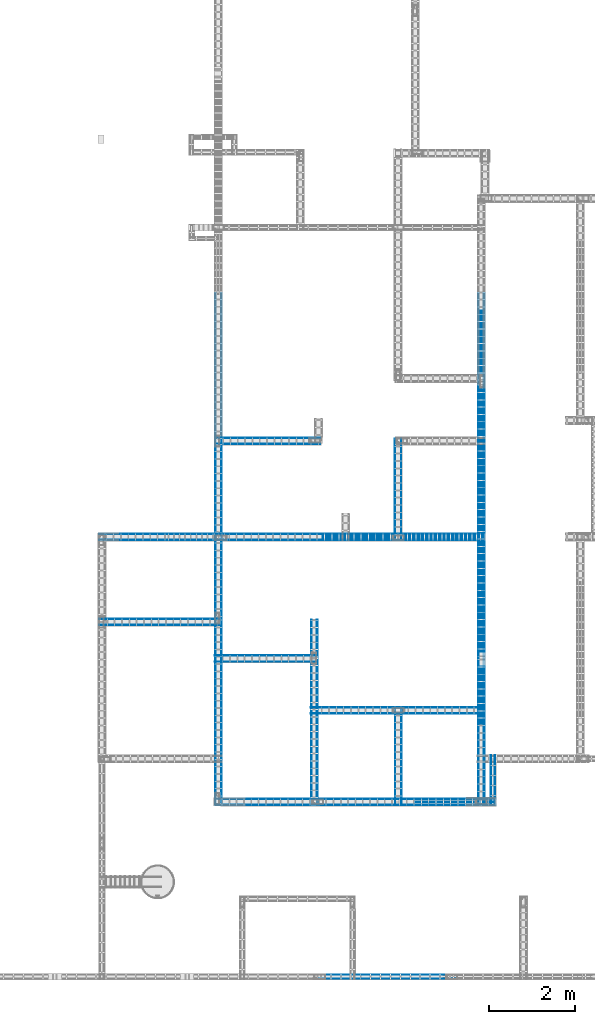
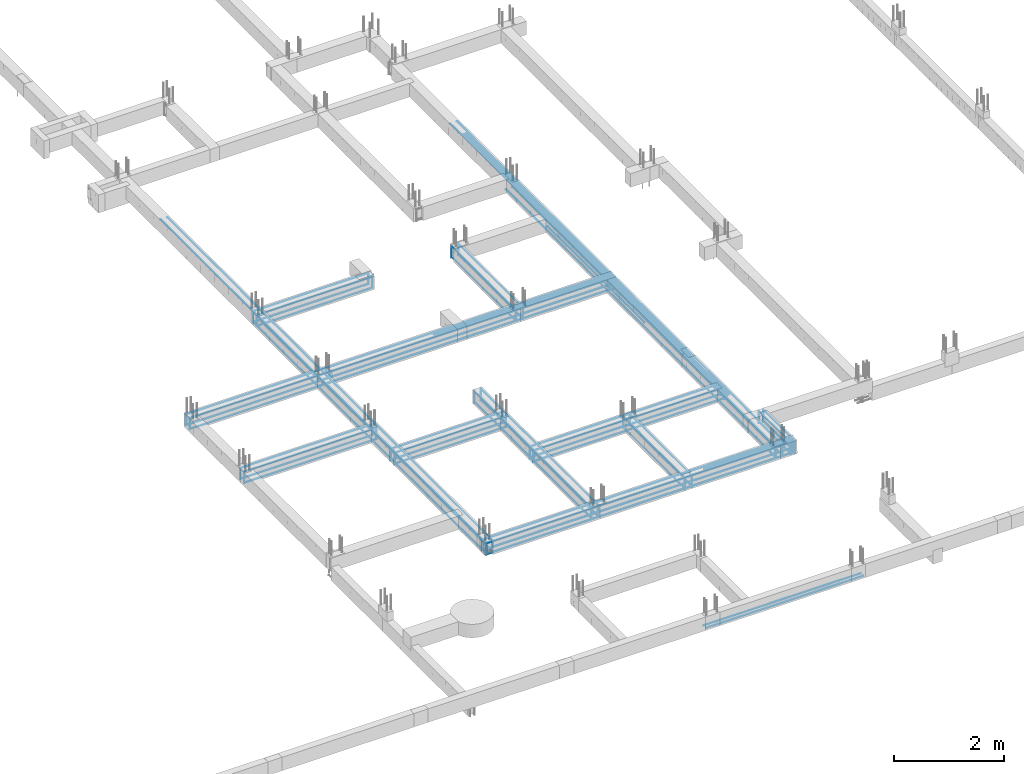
# One storey, part 9 of 150: 60 reinforcing bars.
"""IFC4 building model written with IfcOpenShell, lengths in centimetres."""

from ifc_helpers import new_model, entity, si_unit, derived_unit, frame, origin_with_axes, place, context, project, spatial, element, save


model = new_model("IFC4")

# Units and contexts
model_context = context("Model", 3, precision=1e-05, world=origin_with_axes(), identifier="Body")
ifc_project = project(units=[si_unit("LENGTHUNIT", "METRE", prefix="CENTI"), si_unit("VOLUMEUNIT", "CUBIC_METRE"), si_unit("AREAUNIT", "SQUARE_METRE"), si_unit("POWERUNIT", "WATT"), si_unit("LUMINOUSFLUXUNIT", "LUMEN"), si_unit("ELECTRICCURRENTUNIT", "AMPERE"), si_unit("PRESSUREUNIT", "PASCAL", prefix="KILO"), si_unit("MASSUNIT", "GRAM", prefix="KILO"), si_unit("PLANEANGLEUNIT", "RADIAN"), derived_unit("VOLUMETRICFLOWRATEUNIT", [(si_unit("LENGTHUNIT", "METRE"), 3), (si_unit("TIMEUNIT", "SECOND"), -1)])], contexts=[model_context])

# Site, building, storey
site_placement = place(None, frame((-4000.0, 0.0, 0.0), z_axis=(0.0, 0.0, 1.0), x_axis=(1.0, 0.0, 0.0)))
site = spatial("IfcSite", under=ifc_project, at=site_placement, Name="PADRÃO")
building_placement = place(site_placement, frame((0.0, 0.0, -14.0)))
building = spatial("IfcBuilding", under=site, at=building_placement, Name="CRECHE PRÉ-ESCOLA TIPO 2")
placement = place(building_placement, origin_with_axes())
storey_placement = place(placement, frame((0.0, 0.0, 30.0), z_axis=(0.0, 0.0, 1.0), x_axis=(1.0, 0.0, 0.0)))
storey = spatial("IfcBuildingStorey", under=building, at=storey_placement, Name="VIGA BALDRAME", CompositionType="ELEMENT", Elevation=16.0)

# Reinforcing bars
for number, where, z_axis, x_axis, name in (
    (1, (2640.6181248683, 1245.41, -17.1), (0.0, 0.0, 1.0), (1.0, 0.0, 0.0), "V137 - Longitudinal inferior"),
    (2, (2640.6181248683, 1259.61, -17.1), (0.0, 0.0, 1.0), (1.0, 0.0, 0.0), "V137 - Longitudinal inferior"),
):
    element("IfcReinforcingBar", number, at=place(storey_placement, frame(where, z_axis=z_axis, x_axis=x_axis)), inside=storey, Name=name, BarLength=0.0, CrossSectionArea=5.0265482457e-05, NominalDiameter=0.8, PredefinedType="MAIN", context=model_context, shape_type="AdvancedSweptSolid", body=[
        entity("IfcSweptDiskSolid", entity("IfcCompositeCurve", [entity("IfcCompositeCurveSegment", "CONTINUOUS", True, entity("IfcPolyline", [entity("IfcCartesianPoint", [-121.7181248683, 0.0, 0.0]), entity("IfcCartesianPoint", [-121.7181248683, 0.0, -10.0])])), entity("IfcCompositeCurveSegment", "CONTINUOUS", True, entity("IfcPolyline", [entity("IfcCartesianPoint", [-121.7181248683, 0.0, -10.0]), entity("IfcCartesianPoint", [122.121875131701, 0.0, -10.0])]))], False), 0.4),
    ])
for number, where, z_axis, x_axis, name in (
    (3, (2640.62, 1259.61, -2.49624973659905), (0.0, 0.0, 1.0), (1.0, 0.0, 0.0), "V137 - Longitudinal superior"),
    (4, (2640.62, 1245.41, -2.49624973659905), (0.0, 0.0, 1.0), (1.0, 0.0, 0.0), "V137 - Longitudinal superior"),
):
    element("IfcReinforcingBar", number, at=place(storey_placement, frame(where, z_axis=z_axis, x_axis=x_axis)), inside=storey, Name=name, BarLength=0.0, CrossSectionArea=5.0265482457e-05, NominalDiameter=0.8, PredefinedType="MAIN", context=model_context, shape_type="AdvancedSweptSolid", body=[
        entity("IfcSweptDiskSolid", entity("IfcCompositeCurve", [entity("IfcCompositeCurveSegment", "CONTINUOUS", True, entity("IfcPolyline", [entity("IfcCartesianPoint", [-121.72, 0.0, -24.2941566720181]), entity("IfcCartesianPoint", [-121.72, 0.0, -0.403750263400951])])), entity("IfcCompositeCurveSegment", "CONTINUOUS", True, entity("IfcPolyline", [entity("IfcCartesianPoint", [-121.72, 0.0, -0.403750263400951]), entity("IfcCartesianPoint", [121.72, 0.0, -0.403750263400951])])), entity("IfcCompositeCurveSegment", "CONTINUOUS", True, entity("IfcPolyline", [entity("IfcCartesianPoint", [121.72, 0.0, -0.403750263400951]), entity("IfcCartesianPoint", [121.72, 0.0, -24.2941566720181])]))], False), 0.4),
    ])
for number, where, z_axis, x_axis, name in (
    (5, (2396.9931248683, 1037.11, -17.1), (0.0, 0.0, 1.0), (1.0, 0.0, 0.0), "V142 - Longitudinal inferior"),
    (6, (2396.9931248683, 1022.91, -17.1), (0.0, 0.0, 1.0), (1.0, 0.0, 0.0), "V142 - Longitudinal inferior"),
):
    element("IfcReinforcingBar", number, at=place(storey_placement, frame(where, z_axis=z_axis, x_axis=x_axis)), inside=storey, Name=name, BarLength=0.0, CrossSectionArea=5.0265482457e-05, NominalDiameter=0.8, PredefinedType="MAIN", context=model_context, shape_type="AdvancedSweptSolid", body=[
        entity("IfcSweptDiskSolid", entity("IfcCompositeCurve", [entity("IfcCompositeCurveSegment", "CONTINUOUS", True, entity("IfcPolyline", [entity("IfcCartesianPoint", [-147.1031248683, 0.0, 0.0]), entity("IfcCartesianPoint", [-147.1031248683, 0.0, -10.0])])), entity("IfcCompositeCurveSegment", "CONTINUOUS", True, entity("IfcPolyline", [entity("IfcCartesianPoint", [-147.1031248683, 0.0, -10.0]), entity("IfcCartesianPoint", [147.5068751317, 0.0, -10.0])]))], False), 0.4),
    ])
for number, where, z_axis, x_axis, name in (
    (7, (2396.995, 1037.01, -2.49531217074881), (0.0, 0.0, 1.0), (1.0, 0.0, 0.0), "V142 - Longitudinal superior"),
    (8, (2396.995, 1023.01, -2.49531217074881), (0.0, 0.0, 1.0), (1.0, 0.0, 0.0), "V142 - Longitudinal superior"),
):
    element("IfcReinforcingBar", number, at=place(storey_placement, frame(where, z_axis=z_axis, x_axis=x_axis)), inside=storey, Name=name, BarLength=0.0, CrossSectionArea=7.853981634e-05, NominalDiameter=1.0, PredefinedType="MAIN", context=model_context, shape_type="AdvancedSweptSolid", body=[
        entity("IfcSweptDiskSolid", entity("IfcCompositeCurve", [entity("IfcCompositeCurveSegment", "CONTINUOUS", True, entity("IfcPolyline", [entity("IfcCartesianPoint", [-147.005, 0.0, -19.6170129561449]), entity("IfcCartesianPoint", [-147.005, 0.0, -0.504687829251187])])), entity("IfcCompositeCurveSegment", "CONTINUOUS", True, entity("IfcPolyline", [entity("IfcCartesianPoint", [-147.005, 0.0, -0.504687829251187]), entity("IfcCartesianPoint", [147.005, 0.0, -0.504687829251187])])), entity("IfcCompositeCurveSegment", "CONTINUOUS", True, entity("IfcPolyline", [entity("IfcCartesianPoint", [147.005, 0.0, -0.504687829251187]), entity("IfcCartesianPoint", [147.005, 0.0, -12.0046878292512])]))], False), 0.5),
    ])
for number, where, z_axis, x_axis, name in (
    (9, (2831.25292989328, 1036.885, -11.5851398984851), (0.0, 0.0, 1.0), (1.0, 0.0, 0.0), "V143 - Longitudinal inferior"),
    (10, (2831.25292989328, 1023.135, -11.5851398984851), (0.0, 0.0, 1.0), (1.0, 0.0, 0.0), "V143 - Longitudinal inferior"),
):
    element("IfcReinforcingBar", number, at=place(storey_placement, frame(where, z_axis=z_axis, x_axis=x_axis)), inside=storey, Name=name, BarLength=0.0, CrossSectionArea=0.000122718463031, NominalDiameter=1.25, PredefinedType="MAIN", context=model_context, shape_type="AdvancedSweptSolid", body=[
        entity("IfcSweptDiskSolid", entity("IfcCompositeCurve", [entity("IfcCompositeCurveSegment", "CONTINUOUS", True, entity("IfcPolyline", [entity("IfcCartesianPoint", [-312.752929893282, 0.0, -15.2898601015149]), entity("IfcCartesianPoint", [312.122070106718, 0.0, -15.2898601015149])])), entity("IfcCompositeCurveSegment", "CONTINUOUS", True, entity("IfcPolyline", [entity("IfcCartesianPoint", [312.122070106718, 0.0, -15.2898601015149]), entity("IfcCartesianPoint", [312.122070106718, 0.0, 0.0])]))], False), 0.625),
    ])
for number, where, z_axis, x_axis, name in (
    (11, (2956.12292989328, 1027.71833333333, -2.49414021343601), (0.0, 0.0, 1.0), (1.0, 0.0, 0.0), "V143 - Longitudinal superior"),
    (12, (2956.12292989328, 1032.30166666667, -2.49414021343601), (0.0, 0.0, 1.0), (1.0, 0.0, 0.0), "V143 - Longitudinal superior"),
):
    element("IfcReinforcingBar", number, at=place(storey_placement, frame(where, z_axis=z_axis, x_axis=x_axis)), inside=storey, Name=name, BarLength=0.0, CrossSectionArea=0.000122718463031, NominalDiameter=1.25, PredefinedType="MAIN", context=model_context, shape_type="AdvancedSweptSolid", body=[
        entity("IfcSweptDiskSolid", entity("IfcCompositeCurve", [entity("IfcCompositeCurveSegment", "CONTINUOUS", True, entity("IfcPolyline", [entity("IfcCartesianPoint", [-187.882929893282, 0.0, -0.630859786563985]), entity("IfcCartesianPoint", [187.252070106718, 0.0, -0.630859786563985])])), entity("IfcCompositeCurveSegment", "CONTINUOUS", True, entity("IfcPolyline", [entity("IfcCartesianPoint", [187.252070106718, 0.0, -0.630859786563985]), entity("IfcCartesianPoint", [187.252070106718, 0.0, -26.630859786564])]))], False), 0.625),
    ])
for number, where, z_axis, x_axis, name in (
    (13, (2831.25, 1036.885, -2.49414021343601), (0.0, 0.0, 1.0), (1.0, 0.0, 0.0), "V143 - Longitudinal superior"),
    (14, (2831.25, 1023.135, -2.49414021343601), (0.0, 0.0, 1.0), (1.0, 0.0, 0.0), "V143 - Longitudinal superior"),
):
    element("IfcReinforcingBar", number, at=place(storey_placement, frame(where, z_axis=z_axis, x_axis=x_axis)), inside=storey, Name=name, BarLength=0.0, CrossSectionArea=0.000122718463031, NominalDiameter=1.25, PredefinedType="MAIN", context=model_context, shape_type="AdvancedSweptSolid", body=[
        entity("IfcSweptDiskSolid", entity("IfcCompositeCurve", [entity("IfcCompositeCurveSegment", "CONTINUOUS", True, entity("IfcPolyline", [entity("IfcCartesianPoint", [-312.125, 0.0, -10.630859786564]), entity("IfcCartesianPoint", [-312.125, 0.0, -0.630859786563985])])), entity("IfcCompositeCurveSegment", "CONTINUOUS", True, entity("IfcPolyline", [entity("IfcCartesianPoint", [-312.125, 0.0, -0.630859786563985]), entity("IfcCartesianPoint", [312.125, 0.0, -0.630859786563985])])), entity("IfcCompositeCurveSegment", "CONTINUOUS", True, entity("IfcPolyline", [entity("IfcCartesianPoint", [312.125, 0.0, -0.630859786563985]), entity("IfcCartesianPoint", [312.125, 0.0, -26.630859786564])]))], False), 0.625),
    ])
for number, where, z_axis, x_axis, name in (
    (15, (2388.9931248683, 825.42, -17.1), (0.0, 0.0, 1.0), (1.0, 0.0, 0.0), "V146 - Longitudinal inferior"),
    (16, (2388.9931248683, 839.62, -17.1), (0.0, 0.0, 1.0), (1.0, 0.0, 0.0), "V146 - Longitudinal inferior"),
):
    element("IfcReinforcingBar", number, at=place(storey_placement, frame(where, z_axis=z_axis, x_axis=x_axis)), inside=storey, Name=name, BarLength=0.0, CrossSectionArea=5.0265482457e-05, NominalDiameter=0.8, PredefinedType="MAIN", context=model_context, shape_type="AdvancedSweptSolid", body=[
        entity("IfcSweptDiskSolid", entity("IfcCompositeCurve", [entity("IfcCompositeCurveSegment", "CONTINUOUS", True, entity("IfcPolyline", [entity("IfcCartesianPoint", [-139.1031248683, 0.0, 0.0]), entity("IfcCartesianPoint", [-139.1031248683, 0.0, -10.0])])), entity("IfcCompositeCurveSegment", "CONTINUOUS", True, entity("IfcPolyline", [entity("IfcCartesianPoint", [-139.1031248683, 0.0, -10.0]), entity("IfcCartesianPoint", [139.5068751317, 0.0, -10.0])]))], False), 0.4),
    ])
for number, where, z_axis, x_axis, name in (
    (17, (2388.995, 825.42, -2.49624973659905), (0.0, 0.0, 1.0), (1.0, 0.0, 0.0), "V146 - Longitudinal superior"),
    (18, (2388.995, 839.62, -2.49624973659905), (0.0, 0.0, 1.0), (1.0, 0.0, 0.0), "V146 - Longitudinal superior"),
):
    element("IfcReinforcingBar", number, at=place(storey_placement, frame(where, z_axis=z_axis, x_axis=x_axis)), inside=storey, Name=name, BarLength=0.0, CrossSectionArea=5.0265482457e-05, NominalDiameter=0.8, PredefinedType="MAIN", context=model_context, shape_type="AdvancedSweptSolid", body=[
        entity("IfcSweptDiskSolid", entity("IfcCompositeCurve", [entity("IfcCompositeCurveSegment", "CONTINUOUS", True, entity("IfcPolyline", [entity("IfcCartesianPoint", [-139.105, 0.0, -24.2941566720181]), entity("IfcCartesianPoint", [-139.105, 0.0, -0.403750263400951])])), entity("IfcCompositeCurveSegment", "CONTINUOUS", True, entity("IfcPolyline", [entity("IfcCartesianPoint", [-139.105, 0.0, -0.403750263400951]), entity("IfcCartesianPoint", [139.105, 0.0, -0.403750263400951])])), entity("IfcCompositeCurveSegment", "CONTINUOUS", True, entity("IfcPolyline", [entity("IfcCartesianPoint", [139.105, 0.0, -0.403750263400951]), entity("IfcCartesianPoint", [139.105, 0.0, -24.2941566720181])]))], False), 0.4),
    ])
for number, where, z_axis, x_axis, name in (
    (19, (2635.26, 740.49, -26.7), (0.0, 0.0, 1.0), (1.0, 0.0, 0.0), "V147 - Longitudinal inferior"),
    (20, (2635.26, 754.69, -26.7), (0.0, 0.0, 1.0), (1.0, 0.0, 0.0), "V147 - Longitudinal inferior"),
):
    element("IfcReinforcingBar", number, at=place(storey_placement, frame(where, z_axis=z_axis, x_axis=x_axis)), inside=storey, Name=name, BarLength=0.0, CrossSectionArea=5.0265482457e-05, NominalDiameter=0.8, PredefinedType="MAIN", context=model_context, shape_type="AdvancedSweptSolid", body=[
        entity("IfcSweptDiskSolid", entity("IfcCompositeCurve", [entity("IfcCompositeCurveSegment", "CONTINUOUS", True, entity("IfcPolyline", [entity("IfcCartesianPoint", [-117.26, 0.0, -0.4]), entity("IfcCartesianPoint", [117.26, 0.0, -0.4])]))], False), 0.4),
    ])
for number, where, z_axis, x_axis, name in (
    (21, (2635.26, 740.49, -2.49624973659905), (0.0, 0.0, 1.0), (1.0, 0.0, 0.0), "V147 - Longitudinal superior"),
    (22, (2635.26, 754.69, -2.49624973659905), (0.0, 0.0, 1.0), (1.0, 0.0, 0.0), "V147 - Longitudinal superior"),
):
    element("IfcReinforcingBar", number, at=place(storey_placement, frame(where, z_axis=z_axis, x_axis=x_axis)), inside=storey, Name=name, BarLength=0.0, CrossSectionArea=5.0265482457e-05, NominalDiameter=0.8, PredefinedType="MAIN", context=model_context, shape_type="AdvancedSweptSolid", body=[
        entity("IfcSweptDiskSolid", entity("IfcCompositeCurve", [entity("IfcCompositeCurveSegment", "CONTINUOUS", True, entity("IfcPolyline", [entity("IfcCartesianPoint", [-116.86, 0.0, -26.403750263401]), entity("IfcCartesianPoint", [-116.86, 0.0, -0.403750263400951])])), entity("IfcCompositeCurveSegment", "CONTINUOUS", True, entity("IfcPolyline", [entity("IfcCartesianPoint", [-116.86, 0.0, -0.403750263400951]), entity("IfcCartesianPoint", [116.86, 0.0, -0.403750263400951])])), entity("IfcCompositeCurveSegment", "CONTINUOUS", True, entity("IfcPolyline", [entity("IfcCartesianPoint", [116.86, 0.0, -0.403750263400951]), entity("IfcCartesianPoint", [116.86, 0.0, -24.2941566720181])]))], False), 0.4),
    ])
for number, where, z_axis, x_axis, name in (
    (23, (2942.23, 634.68, -26.7), (0.0, 0.0, 1.0), (1.0, 0.0, 0.0), "V148 - Longitudinal inferior"),
    (24, (2942.23, 620.48, -26.7), (0.0, 0.0, 1.0), (1.0, 0.0, 0.0), "V148 - Longitudinal inferior"),
):
    element("IfcReinforcingBar", number, at=place(storey_placement, frame(where, z_axis=z_axis, x_axis=x_axis)), inside=storey, Name=name, BarLength=0.0, CrossSectionArea=5.0265482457e-05, NominalDiameter=0.8, PredefinedType="MAIN", context=model_context, shape_type="AdvancedSweptSolid", body=[
        entity("IfcSweptDiskSolid", entity("IfcCompositeCurve", [entity("IfcCompositeCurveSegment", "CONTINUOUS", True, entity("IfcPolyline", [entity("IfcCartesianPoint", [-201.77, 0.0, -0.4]), entity("IfcCartesianPoint", [201.77, 0.0, -0.4])]))], False), 0.4),
    ])
for number, where, z_axis, x_axis, name in (
    (25, (2942.23, 634.58, -2.49531217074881), (0.0, 0.0, 1.0), (1.0, 0.0, 0.0), "V148 - Longitudinal superior"),
    (26, (2942.23, 620.58, -2.49531217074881), (0.0, 0.0, 1.0), (1.0, 0.0, 0.0), "V148 - Longitudinal superior"),
):
    element("IfcReinforcingBar", number, at=place(storey_placement, frame(where, z_axis=z_axis, x_axis=x_axis)), inside=storey, Name=name, BarLength=0.0, CrossSectionArea=7.853981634e-05, NominalDiameter=1.0, PredefinedType="MAIN", context=model_context, shape_type="AdvancedSweptSolid", body=[
        entity("IfcSweptDiskSolid", entity("IfcCompositeCurve", [entity("IfcCompositeCurveSegment", "CONTINUOUS", True, entity("IfcPolyline", [entity("IfcCartesianPoint", [-201.27, 0.0, -26.5046878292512]), entity("IfcCartesianPoint", [-201.27, 0.0, -0.504687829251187])])), entity("IfcCompositeCurveSegment", "CONTINUOUS", True, entity("IfcPolyline", [entity("IfcCartesianPoint", [-201.27, 0.0, -0.504687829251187]), entity("IfcCartesianPoint", [201.27, 0.0, -0.504687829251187])])), entity("IfcCompositeCurveSegment", "CONTINUOUS", True, entity("IfcPolyline", [entity("IfcCartesianPoint", [201.27, 0.0, -0.504687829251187]), entity("IfcCartesianPoint", [201.27, 0.0, -26.5046878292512])]))], False), 0.5),
    ])
for number, where, z_axis, x_axis, name in (
    (27, (2843.74, 421.885, -11.5851398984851), (0.0, 0.0, 1.0), (1.0, 0.0, 0.0), "V155 - Longitudinal inferior"),
    (28, (2843.74, 408.135, -11.5851398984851), (0.0, 0.0, 1.0), (1.0, 0.0, 0.0), "V155 - Longitudinal inferior"),
):
    element("IfcReinforcingBar", number, at=place(storey_placement, frame(where, z_axis=z_axis, x_axis=x_axis)), inside=storey, Name=name, BarLength=0.0, CrossSectionArea=0.000122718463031, NominalDiameter=1.25, PredefinedType="MAIN", context=model_context, shape_type="AdvancedSweptSolid", body=[
        entity("IfcSweptDiskSolid", entity("IfcCompositeCurve", [entity("IfcCompositeCurveSegment", "CONTINUOUS", True, entity("IfcPolyline", [entity("IfcCartesianPoint", [-324.615, 0.0, -0.289860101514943]), entity("IfcCartesianPoint", [-324.615, 0.0, -15.2898601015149])])), entity("IfcCompositeCurveSegment", "CONTINUOUS", True, entity("IfcPolyline", [entity("IfcCartesianPoint", [-324.615, 0.0, -15.2898601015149]), entity("IfcCartesianPoint", [324.615, 0.0, -15.2898601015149])])), entity("IfcCompositeCurveSegment", "CONTINUOUS", True, entity("IfcPolyline", [entity("IfcCartesianPoint", [324.615, 0.0, -15.2898601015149]), entity("IfcCartesianPoint", [324.615, 0.0, 0.0])]))], False), 0.625),
    ])
reinforcing_bar_1_placement = place(storey_placement, frame((3074.99292989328, 415.01, -2.49414021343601), z_axis=(0.0, 0.0, 1.0), x_axis=(1.0, 0.0, 0.0)))
element("IfcReinforcingBar", 29, at=reinforcing_bar_1_placement, inside=storey, Name="V155 - Longitudinal superior", BarLength=0.0, CrossSectionArea=0.000122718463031, NominalDiameter=1.25, PredefinedType="MAIN", context=model_context, shape_type="AdvancedSweptSolid", body=[
    entity("IfcSweptDiskSolid", entity("IfcCompositeCurve", [entity("IfcCompositeCurveSegment", "CONTINUOUS", True, entity("IfcPolyline", [entity("IfcCartesianPoint", [-93.9929298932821, 0.0, -0.630859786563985]), entity("IfcCartesianPoint", [93.362070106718, 0.0, -0.630859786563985])])), entity("IfcCompositeCurveSegment", "CONTINUOUS", True, entity("IfcPolyline", [entity("IfcCartesianPoint", [93.362070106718, 0.0, -0.630859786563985]), entity("IfcCartesianPoint", [93.362070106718, 0.0, -26.630859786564])]))], False), 0.625),
])
for number, where, z_axis, x_axis, name in (
    (30, (2843.74, 408.135, -2.49414021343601), (0.0, 0.0, 1.0), (1.0, 0.0, 0.0), "V155 - Longitudinal superior"),
    (31, (2843.74, 421.885, -2.49414021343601), (0.0, 0.0, 1.0), (1.0, 0.0, 0.0), "V155 - Longitudinal superior"),
):
    element("IfcReinforcingBar", number, at=place(storey_placement, frame(where, z_axis=z_axis, x_axis=x_axis)), inside=storey, Name=name, BarLength=0.0, CrossSectionArea=0.000122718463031, NominalDiameter=1.25, PredefinedType="MAIN", context=model_context, shape_type="AdvancedSweptSolid", body=[
        entity("IfcSweptDiskSolid", entity("IfcCompositeCurve", [entity("IfcCompositeCurveSegment", "CONTINUOUS", True, entity("IfcPolyline", [entity("IfcCartesianPoint", [-324.615, 0.0, -15.005859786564]), entity("IfcCartesianPoint", [-324.615, 0.0, -0.630859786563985])])), entity("IfcCompositeCurveSegment", "CONTINUOUS", True, entity("IfcPolyline", [entity("IfcCartesianPoint", [-324.615, 0.0, -0.630859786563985]), entity("IfcCartesianPoint", [324.615, 0.0, -0.630859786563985])])), entity("IfcCompositeCurveSegment", "CONTINUOUS", True, entity("IfcPolyline", [entity("IfcCartesianPoint", [324.615, 0.0, -0.630859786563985]), entity("IfcCartesianPoint", [324.615, 0.0, -26.630859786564])]))], False), 0.625),
    ])
for number, where, z_axis, x_axis, name in (
    (32, (2914.0, 14.1, -26.7), (0.0, 0.0, 1.0), (1.0, 0.0, 0.0), "V158 - Longitudinal inferior"),
    (33, (2914.0, 4.9, -26.7), (0.0, 0.0, 1.0), (1.0, 0.0, 0.0), "V158 - Longitudinal inferior"),
):
    element("IfcReinforcingBar", number, at=place(storey_placement, frame(where, z_axis=z_axis, x_axis=x_axis)), inside=storey, Name=name, BarLength=0.0, CrossSectionArea=5.0265482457e-05, NominalDiameter=0.8, PredefinedType="MAIN", context=model_context, shape_type="AdvancedSweptSolid", body=[
        entity("IfcSweptDiskSolid", entity("IfcCompositeCurve", [entity("IfcCompositeCurveSegment", "CONTINUOUS", True, entity("IfcPolyline", [entity("IfcCartesianPoint", [-165.185840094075, 0.0, -0.4]), entity("IfcCartesianPoint", [165.185840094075, 0.0, -0.4])]))], False), 0.4),
    ])
for number, where, z_axis, x_axis, name in (
    (34, (2532.875, 833.55, -26.25), (0.0, 0.0, 1.0), (1.0, 0.0, 0.0), "V196 - Longitudinal inferior"),
    (35, (2519.125, 833.55, -26.25), (0.0, 0.0, 1.0), (1.0, 0.0, 0.0), "V196 - Longitudinal inferior"),
):
    element("IfcReinforcingBar", number, at=place(storey_placement, frame(where, z_axis=z_axis, x_axis=x_axis)), inside=storey, Name=name, BarLength=0.0, CrossSectionArea=0.000122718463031, NominalDiameter=1.25, PredefinedType="MAIN", context=model_context, shape_type="AdvancedSweptSolid", body=[
        entity("IfcSweptDiskSolid", entity("IfcCompositeCurve", [entity("IfcCompositeCurveSegment", "CONTINUOUS", True, entity("IfcPolyline", [entity("IfcCartesianPoint", [0.0, -423.53, -0.625]), entity("IfcCartesianPoint", [0.0, 423.53, -0.625])]))], False), 0.625),
    ])
for number, where, z_axis, x_axis, name in (
    (36, (2532.875, 1002.82957010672, -2.49414021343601), (0.0, 0.0, 1.0), (1.0, 0.0, 0.0), "V196 - Longitudinal superior"),
    (37, (2519.125, 1002.82957010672, -2.49414021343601), (0.0, 0.0, 1.0), (1.0, 0.0, 0.0), "V196 - Longitudinal superior"),
):
    element("IfcReinforcingBar", number, at=place(storey_placement, frame(where, z_axis=z_axis, x_axis=x_axis)), inside=storey, Name=name, BarLength=0.0, CrossSectionArea=0.000122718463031, NominalDiameter=1.25, PredefinedType="MAIN", context=model_context, shape_type="AdvancedSweptSolid", body=[
        entity("IfcSweptDiskSolid", entity("IfcCompositeCurve", [entity("IfcCompositeCurveSegment", "CONTINUOUS", True, entity("IfcPolyline", [entity("IfcCartesianPoint", [0.0, -592.184570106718, -15.005859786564]), entity("IfcCartesianPoint", [0.0, -592.184570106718, -0.630859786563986])])), entity("IfcCompositeCurveSegment", "CONTINUOUS", True, entity("IfcPolyline", [entity("IfcCartesianPoint", [0.0, -592.184570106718, -0.630859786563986]), entity("IfcCartesianPoint", [0.0, 592.815429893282, -0.630859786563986])]))], False), 0.625),
    ])
for number, where, z_axis, x_axis, name in (
    (38, (2741.585, 624.002070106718, -11.875), (0.0, 0.0, 1.0), (1.0, 0.0, 0.0), "V203 - Longitudinal inferior"),
    (39, (2755.335, 624.002070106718, -11.875), (0.0, 0.0, 1.0), (1.0, 0.0, 0.0), "V203 - Longitudinal inferior"),
):
    element("IfcReinforcingBar", number, at=place(storey_placement, frame(where, z_axis=z_axis, x_axis=x_axis)), inside=storey, Name=name, BarLength=0.0, CrossSectionArea=0.000122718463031, NominalDiameter=1.25, PredefinedType="MAIN", context=model_context, shape_type="AdvancedSweptSolid", body=[
        entity("IfcSweptDiskSolid", entity("IfcCompositeCurve", [entity("IfcCompositeCurveSegment", "CONTINUOUS", True, entity("IfcPolyline", [entity("IfcCartesianPoint", [0.0, -213.367070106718, 0.0]), entity("IfcCartesianPoint", [0.0, -213.367070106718, -15.0])])), entity("IfcCompositeCurveSegment", "CONTINUOUS", True, entity("IfcPolyline", [entity("IfcCartesianPoint", [0.0, -213.367070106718, -15.0]), entity("IfcCartesianPoint", [0.0, 213.997929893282, -15.0])]))], False), 0.625),
    ])
for number, where, z_axis, x_axis, name in (
    (40, (2741.46, 624.005, -2.49531217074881), (0.0, 0.0, 1.0), (1.0, 0.0, 0.0), "V203 - Longitudinal superior"),
    (41, (2755.46, 624.005, -2.49531217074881), (0.0, 0.0, 1.0), (1.0, 0.0, 0.0), "V203 - Longitudinal superior"),
):
    element("IfcReinforcingBar", number, at=place(storey_placement, frame(where, z_axis=z_axis, x_axis=x_axis)), inside=storey, Name=name, BarLength=0.0, CrossSectionArea=7.853981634e-05, NominalDiameter=1.0, PredefinedType="MAIN", context=model_context, shape_type="AdvancedSweptSolid", body=[
        entity("IfcSweptDiskSolid", entity("IfcCompositeCurve", [entity("IfcCompositeCurveSegment", "CONTINUOUS", True, entity("IfcPolyline", [entity("IfcCartesianPoint", [0.0, -213.495, -19.6170129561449]), entity("IfcCartesianPoint", [0.0, -213.495, -0.504687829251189])])), entity("IfcCompositeCurveSegment", "CONTINUOUS", True, entity("IfcPolyline", [entity("IfcCartesianPoint", [0.0, -213.495, -0.504687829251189]), entity("IfcCartesianPoint", [0.0, 213.495, -0.504687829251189])])), entity("IfcCompositeCurveSegment", "CONTINUOUS", True, entity("IfcPolyline", [entity("IfcCartesianPoint", [0.0, 213.495, -0.504687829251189]), entity("IfcCartesianPoint", [0.0, 213.495, -26.5046878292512])]))], False), 0.5),
    ])
for number, where, z_axis, x_axis, name in (
    (42, (2950.55, 519.795, -26.7), (0.0, 0.0, 1.0), (1.0, 0.0, 0.0), "V209 - Longitudinal inferior"),
    (43, (2936.35, 519.795, -26.7), (0.0, 0.0, 1.0), (1.0, 0.0, 0.0), "V209 - Longitudinal inferior"),
):
    element("IfcReinforcingBar", number, at=place(storey_placement, frame(where, z_axis=z_axis, x_axis=x_axis)), inside=storey, Name=name, BarLength=0.0, CrossSectionArea=5.0265482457e-05, NominalDiameter=0.8, PredefinedType="MAIN", context=model_context, shape_type="AdvancedSweptSolid", body=[
        entity("IfcSweptDiskSolid", entity("IfcCompositeCurve", [entity("IfcCompositeCurveSegment", "CONTINUOUS", True, entity("IfcPolyline", [entity("IfcCartesianPoint", [0.0, -112.785, -0.4]), entity("IfcCartesianPoint", [0.0, 112.785, -0.4])]))], False), 0.4),
    ])
for number, where, z_axis, x_axis, name in (
    (44, (2950.55, 519.795, -2.49624973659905), (0.0, 0.0, 1.0), (1.0, 0.0, 0.0), "V209 - Longitudinal superior"),
    (45, (2936.35, 519.795, -2.49624973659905), (0.0, 0.0, 1.0), (1.0, 0.0, 0.0), "V209 - Longitudinal superior"),
):
    element("IfcReinforcingBar", number, at=place(storey_placement, frame(where, z_axis=z_axis, x_axis=x_axis)), inside=storey, Name=name, BarLength=0.0, CrossSectionArea=5.0265482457e-05, NominalDiameter=0.8, PredefinedType="MAIN", context=model_context, shape_type="AdvancedSweptSolid", body=[
        entity("IfcSweptDiskSolid", entity("IfcCompositeCurve", [entity("IfcCompositeCurveSegment", "CONTINUOUS", True, entity("IfcPolyline", [entity("IfcCartesianPoint", [0.0, -112.385, -26.403750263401]), entity("IfcCartesianPoint", [0.0, -112.385, -0.403750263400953])])), entity("IfcCompositeCurveSegment", "CONTINUOUS", True, entity("IfcPolyline", [entity("IfcCartesianPoint", [0.0, -112.385, -0.403750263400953]), entity("IfcCartesianPoint", [0.0, 112.385, -0.403750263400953])])), entity("IfcCompositeCurveSegment", "CONTINUOUS", True, entity("IfcPolyline", [entity("IfcCartesianPoint", [0.0, 112.385, -0.403750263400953]), entity("IfcCartesianPoint", [0.0, 112.385, -24.2941566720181])]))], False), 0.4),
    ])
for number, where, z_axis, x_axis, name in (
    (46, (2950.34, 1140.0181248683, -17.1), (0.0, 0.0, 1.0), (1.0, 0.0, 0.0), "V210 - Longitudinal inferior"),
    (47, (2936.14, 1140.0181248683, -17.1), (0.0, 0.0, 1.0), (1.0, 0.0, 0.0), "V210 - Longitudinal inferior"),
):
    element("IfcReinforcingBar", number, at=place(storey_placement, frame(where, z_axis=z_axis, x_axis=x_axis)), inside=storey, Name=name, BarLength=0.0, CrossSectionArea=5.0265482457e-05, NominalDiameter=0.8, PredefinedType="MAIN", context=model_context, shape_type="AdvancedSweptSolid", body=[
        entity("IfcSweptDiskSolid", entity("IfcCompositeCurve", [entity("IfcCompositeCurveSegment", "CONTINUOUS", True, entity("IfcPolyline", [entity("IfcCartesianPoint", [0.0, -117.0981248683, 0.0]), entity("IfcCartesianPoint", [0.0, -117.0981248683, -10.0])])), entity("IfcCompositeCurveSegment", "CONTINUOUS", True, entity("IfcPolyline", [entity("IfcCartesianPoint", [0.0, -117.0981248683, -10.0]), entity("IfcCartesianPoint", [0.0, 117.5018751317, -10.0])]))], False), 0.4),
    ])
for number, where, z_axis, x_axis, name in (
    (48, (2936.14, 1140.02, -2.49624973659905), (0.0, 0.0, 1.0), (1.0, 0.0, 0.0), "V210 - Longitudinal superior"),
    (49, (2950.34, 1140.02, -2.49624973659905), (0.0, 0.0, 1.0), (1.0, 0.0, 0.0), "V210 - Longitudinal superior"),
):
    element("IfcReinforcingBar", number, at=place(storey_placement, frame(where, z_axis=z_axis, x_axis=x_axis)), inside=storey, Name=name, BarLength=0.0, CrossSectionArea=5.0265482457e-05, NominalDiameter=0.8, PredefinedType="MAIN", context=model_context, shape_type="AdvancedSweptSolid", body=[
        entity("IfcSweptDiskSolid", entity("IfcCompositeCurve", [entity("IfcCompositeCurveSegment", "CONTINUOUS", True, entity("IfcPolyline", [entity("IfcCartesianPoint", [0.0, -117.1, -24.2941566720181]), entity("IfcCartesianPoint", [0.0, -117.1, -0.403750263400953])])), entity("IfcCompositeCurveSegment", "CONTINUOUS", True, entity("IfcPolyline", [entity("IfcCartesianPoint", [0.0, -117.1, -0.403750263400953]), entity("IfcCartesianPoint", [0.0, 117.1, -0.403750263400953])])), entity("IfcCompositeCurveSegment", "CONTINUOUS", True, entity("IfcPolyline", [entity("IfcCartesianPoint", [0.0, 117.1, -0.403750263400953]), entity("IfcCartesianPoint", [0.0, 117.1, -24.2941566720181])]))], False), 0.4),
    ])
for number, where, z_axis, x_axis, name in (
    (50, (3158.88, 465.01, -26.7), (0.0, 0.0, 1.0), (1.0, 0.0, 0.0), "V215 - Longitudinal inferior"),
    (51, (3168.08, 465.01, -26.7), (0.0, 0.0, 1.0), (1.0, 0.0, 0.0), "V215 - Longitudinal inferior"),
):
    element("IfcReinforcingBar", number, at=place(storey_placement, frame(where, z_axis=z_axis, x_axis=x_axis)), inside=storey, Name=name, BarLength=0.0, CrossSectionArea=5.0265482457e-05, NominalDiameter=0.8, PredefinedType="MAIN", context=model_context, shape_type="AdvancedSweptSolid", body=[
        entity("IfcSweptDiskSolid", entity("IfcCompositeCurve", [entity("IfcCompositeCurveSegment", "CONTINUOUS", True, entity("IfcPolyline", [entity("IfcCartesianPoint", [0.0, -58.0, -0.4]), entity("IfcCartesianPoint", [0.0, 58.0, -0.4])]))], False), 0.4),
    ])
for number, where, z_axis, x_axis, name in (
    (52, (3168.08, 465.01, -2.49624973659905), (0.0, 0.0, 1.0), (1.0, 0.0, 0.0), "V215 - Longitudinal superior"),
    (53, (3158.88, 465.01, -2.49624973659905), (0.0, 0.0, 1.0), (1.0, 0.0, 0.0), "V215 - Longitudinal superior"),
):
    element("IfcReinforcingBar", number, at=place(storey_placement, frame(where, z_axis=z_axis, x_axis=x_axis)), inside=storey, Name=name, BarLength=0.0, CrossSectionArea=5.0265482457e-05, NominalDiameter=0.8, PredefinedType="MAIN", context=model_context, shape_type="AdvancedSweptSolid", body=[
        entity("IfcSweptDiskSolid", entity("IfcCompositeCurve", [entity("IfcCompositeCurveSegment", "CONTINUOUS", True, entity("IfcPolyline", [entity("IfcCartesianPoint", [0.0, -57.6, -18.3215550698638]), entity("IfcCartesianPoint", [0.0, -57.6, -0.403750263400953])])), entity("IfcCompositeCurveSegment", "CONTINUOUS", True, entity("IfcPolyline", [entity("IfcCartesianPoint", [0.0, -57.6, -0.403750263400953]), entity("IfcCartesianPoint", [0.0, 57.6, -0.403750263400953])])), entity("IfcCompositeCurveSegment", "CONTINUOUS", True, entity("IfcPolyline", [entity("IfcCartesianPoint", [0.0, 57.6, -0.403750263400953]), entity("IfcCartesianPoint", [0.0, 57.6, -26.403750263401])]))], False), 0.4),
    ])
for number, where, z_axis, x_axis, name in (
    (54, (3129.125, 902.262070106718, -11.875), (0.0, 0.0, 1.0), (1.0, 0.0, 0.0), "V216 - Longitudinal inferior"),
    (55, (3142.875, 902.262070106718, -11.875), (0.0, 0.0, 1.0), (1.0, 0.0, 0.0), "V216 - Longitudinal inferior"),
):
    element("IfcReinforcingBar", number, at=place(storey_placement, frame(where, z_axis=z_axis, x_axis=x_axis)), inside=storey, Name=name, BarLength=0.0, CrossSectionArea=0.000122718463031, NominalDiameter=1.25, PredefinedType="MAIN", context=model_context, shape_type="AdvancedSweptSolid", body=[
        entity("IfcSweptDiskSolid", entity("IfcCompositeCurve", [entity("IfcCompositeCurveSegment", "CONTINUOUS", True, entity("IfcPolyline", [entity("IfcCartesianPoint", [0.0, -491.627070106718, 0.0]), entity("IfcCartesianPoint", [0.0, -491.627070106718, -15.0])])), entity("IfcCompositeCurveSegment", "CONTINUOUS", True, entity("IfcPolyline", [entity("IfcCartesianPoint", [0.0, -491.627070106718, -15.0]), entity("IfcCartesianPoint", [0.0, 492.257929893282, -15.0])]))], False), 0.625),
    ])
reinforcing_bar_2_placement = place(storey_placement, frame((3136.0, 1078.05, -26.25), z_axis=(0.0, 0.0, 1.0), x_axis=(1.0, 0.0, 0.0)))
element("IfcReinforcingBar", 56, at=reinforcing_bar_2_placement, inside=storey, Name="V216 - Longitudinal inferior", BarLength=0.0, CrossSectionArea=0.000122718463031, NominalDiameter=1.25, PredefinedType="MAIN", context=model_context, shape_type="AdvancedSweptSolid", body=[
    entity("IfcSweptDiskSolid", entity("IfcCompositeCurve", [entity("IfcCompositeCurveSegment", "CONTINUOUS", True, entity("IfcPolyline", [entity("IfcCartesianPoint", [0.0, -176.47, -0.625]), entity("IfcCartesianPoint", [0.0, 176.47, -0.625])]))], False), 0.625),
])
for number, where, z_axis, x_axis, name in (
    (57, (3129.125, 1002.81957010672, -2.49414021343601), (0.0, 0.0, 1.0), (1.0, 0.0, 0.0), "V216 - Longitudinal superior"),
    (58, (3142.875, 1002.81957010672, -2.49414021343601), (0.0, 0.0, 1.0), (1.0, 0.0, 0.0), "V216 - Longitudinal superior"),
):
    element("IfcReinforcingBar", number, at=place(storey_placement, frame(where, z_axis=z_axis, x_axis=x_axis)), inside=storey, Name=name, BarLength=0.0, CrossSectionArea=0.000122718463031, NominalDiameter=1.25, PredefinedType="MAIN", context=model_context, shape_type="AdvancedSweptSolid", body=[
        entity("IfcSweptDiskSolid", entity("IfcCompositeCurve", [entity("IfcCompositeCurveSegment", "CONTINUOUS", True, entity("IfcPolyline", [entity("IfcCartesianPoint", [0.0, -592.184570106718, -15.005859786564]), entity("IfcCartesianPoint", [0.0, -592.184570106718, -0.630859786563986])])), entity("IfcCompositeCurveSegment", "CONTINUOUS", True, entity("IfcPolyline", [entity("IfcCartesianPoint", [0.0, -592.184570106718, -0.630859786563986]), entity("IfcCartesianPoint", [0.0, 592.815429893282, -0.630859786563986])]))], False), 0.625),
    ])
for number, where, z_axis, x_axis, name in (
    (59, (3133.70833333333, 1075.55, -2.5), (0.0, 0.0, 1.0), (1.0, 0.0, 0.0), "V216 - Longitudinal superior"),
    (60, (3138.29166666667, 1075.55, -2.5), (0.0, 0.0, 1.0), (1.0, 0.0, 0.0), "V216 - Longitudinal superior"),
):
    element("IfcReinforcingBar", number, at=place(storey_placement, frame(where, z_axis=z_axis, x_axis=x_axis)), inside=storey, Name=name, BarLength=0.0, CrossSectionArea=0.000122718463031, NominalDiameter=1.25, PredefinedType="MAIN", context=model_context, shape_type="AdvancedSweptSolid", body=[
        entity("IfcSweptDiskSolid", entity("IfcCompositeCurve", [entity("IfcCompositeCurveSegment", "CONTINUOUS", True, entity("IfcPolyline", [entity("IfcCartesianPoint", [0.0, -478.97, -0.625]), entity("IfcCartesianPoint", [0.0, 478.97, -0.625])]))], False), 0.625),
    ])

save(model, "model.ifc")
